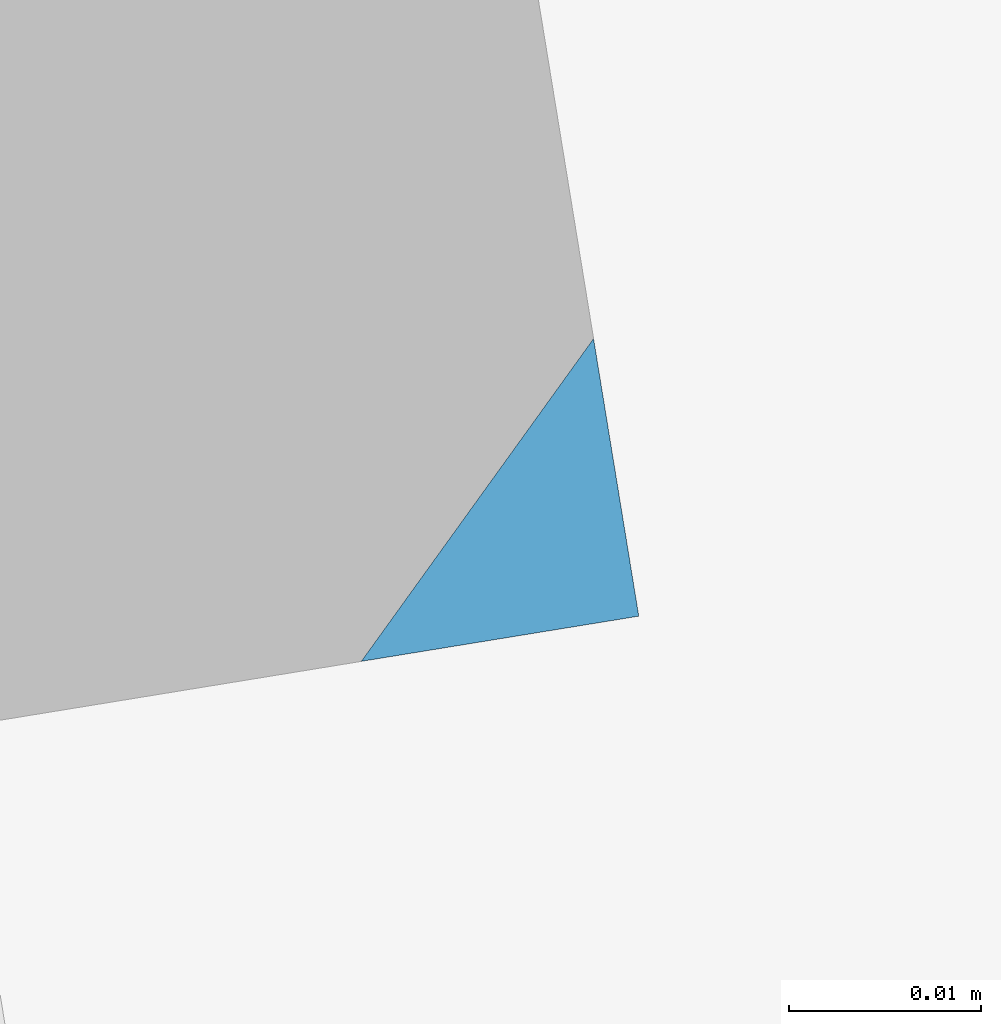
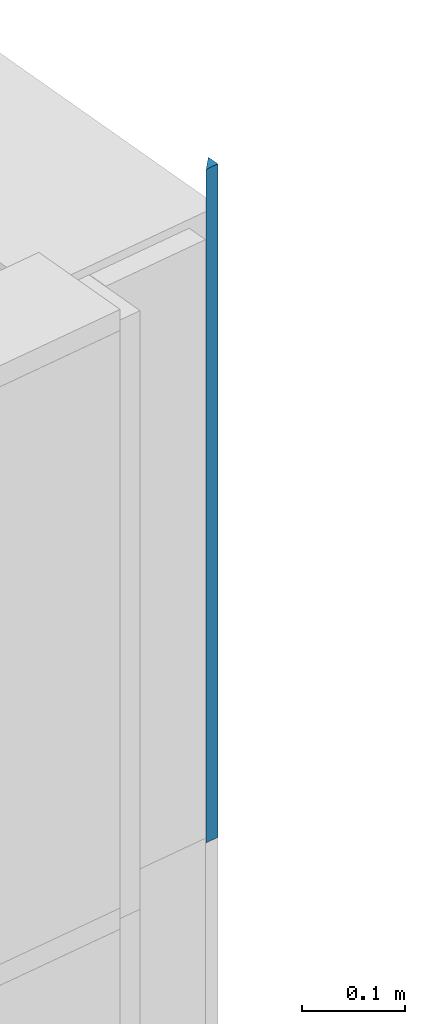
# One storey, part 14 of 18: 1 wall.
"""IFC2X3 building model written with IfcOpenShell, lengths in millimetres."""

from ifc_helpers import new_model, entity, si_unit, converted_unit, derived_unit, direction, frame, origin, origin_with_axes, place, context, subcontext, project, spatial, polyline, outline, extrude, material, layer, layer_set, layer_usage, type_object, element, save


model = new_model("IFC2X3")

# Units and contexts
model_context = context("Model", 3, precision=0.01, world=origin(), true_north=direction((6.12323399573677e-17, 1.0)))
plan_context = context("Plan", 3, precision=1e-05, world=origin_with_axes())
body_context = subcontext(model_context, "Body", "Model", "MODEL_VIEW")
ifc_project = project(units=[converted_unit("PLANEANGLEUNIT", "DEGREE", entity("IfcPositiveLengthMeasure", 0.0174532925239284), si_unit("PLANEANGLEUNIT", "RADIAN"), dimensions=[0, 0, 0, 0, 0, 0, 0]), si_unit("AREAUNIT", "SQUARE_METRE"), si_unit("LENGTHUNIT", "METRE", prefix="MILLI"), si_unit("MASSUNIT", "GRAM", prefix="KILO"), si_unit("POWERUNIT", "WATT"), si_unit("PRESSUREUNIT", "PASCAL", prefix="KILO"), si_unit("FORCEUNIT", "NEWTON", prefix="KILO"), si_unit("ELECTRICVOLTAGEUNIT", "VOLT"), si_unit("ELECTRICCURRENTUNIT", "AMPERE"), si_unit("THERMODYNAMICTEMPERATUREUNIT", "DEGREE_CELSIUS"), si_unit("TIMEUNIT", "SECOND"), si_unit("VOLUMEUNIT", "CUBIC_METRE"), derived_unit("LINEARVELOCITYUNIT", [(si_unit("LENGTHUNIT", "METRE"), 1), (si_unit("TIMEUNIT", "SECOND"), -1)]), derived_unit("VOLUMETRICFLOWRATEUNIT", [(si_unit("VOLUMEUNIT", "CUBIC_METRE"), 1), (si_unit("TIMEUNIT", "SECOND"), -1)]), derived_unit("THERMALTRANSMITTANCEUNIT", [(si_unit("POWERUNIT", "WATT"), 1), (si_unit("THERMODYNAMICTEMPERATUREUNIT", "KELVIN"), -1), (si_unit("AREAUNIT", "SQUARE_METRE"), -1)]), derived_unit("SOUNDPRESSUREUNIT", [(si_unit("PRESSUREUNIT", "PASCAL"), 1)])], contexts=[model_context, plan_context])

# Site, building, storey
site_placement = place(None, frame((-305029.896016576, -232111.759730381, 0.0), z_axis=(0.0, 0.0, 1.0), x_axis=(-0.160806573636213, 0.986985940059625, 0.0)))
site = spatial("IfcSite", under=ifc_project, at=site_placement, Name="Default", CompositionType="ELEMENT")
building_placement = place(site_placement, frame((0.0, 0.0, 0.0), z_axis=(0.0, 0.0, 1.0), x_axis=(1.0, -2.77555756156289e-17, 0.0)))
building = spatial("IfcBuilding", under=site, at=building_placement, Name="br001-a-200-1-0001", CompositionType="ELEMENT")
storey_placement = place(building_placement, frame((0.0, 0.0, 55500.0), z_axis=(0.0, 0.0, 1.0), x_axis=(1.0, -2.77555756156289e-17, 0.0)))
storey = spatial("IfcBuildingStorey", under=building, at=storey_placement, Name="H02-Nivå F-3,5 m", CompositionType="ELEMENT", Elevation=55500.0)

# Wall
ifc_material = material(Name="_NSW Standard")
ifc_layer = layer(ifc_material, 120.0)
ifc_layer_set = layer_set([ifc_layer], Name="Basic Wall:A242 - Standard 120")
ifc_layer_usage = layer_usage(ifc_layer_set, "AXIS2", "NEGATIVE", 60.0)
wall_type = type_object("IfcWallType", Name="Basic Wall:A242 - Standard 120", PredefinedType="STANDARD", material=ifc_layer_set)
wall_placement = place(storey_placement, frame((1172155.24577068, -734267.878367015, 2800.0), z_axis=(0.0, 0.0, 1.0), x_axis=(-1.0, 2.77555756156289e-17, 0.0)))
element("IfcWallStandardCase", 1, at=wall_placement, inside=storey, type_object=wall_type, material=ifc_layer_usage, Name="Basic Wall:A242 - Standard 120", ObjectType="Basic Wall:A242 - Standard 120", context=body_context, shape_type="SweptSolid", body=[
    extrude(outline(polyline([(-10.3571247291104, -3.45237490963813), (10.3571247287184, -3.45237490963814), (0.0, 6.90474981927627), (-10.3571247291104, -3.45237490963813)])), frame((9.76479083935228, 55.1176045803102, 0.0), z_axis=(0.0, 0.0, 1.0), x_axis=(0.707106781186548, -0.707106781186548, 0.0)), (0.0, 0.0, 1.0), 799.999999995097),
])

save(model, "model.ifc")
